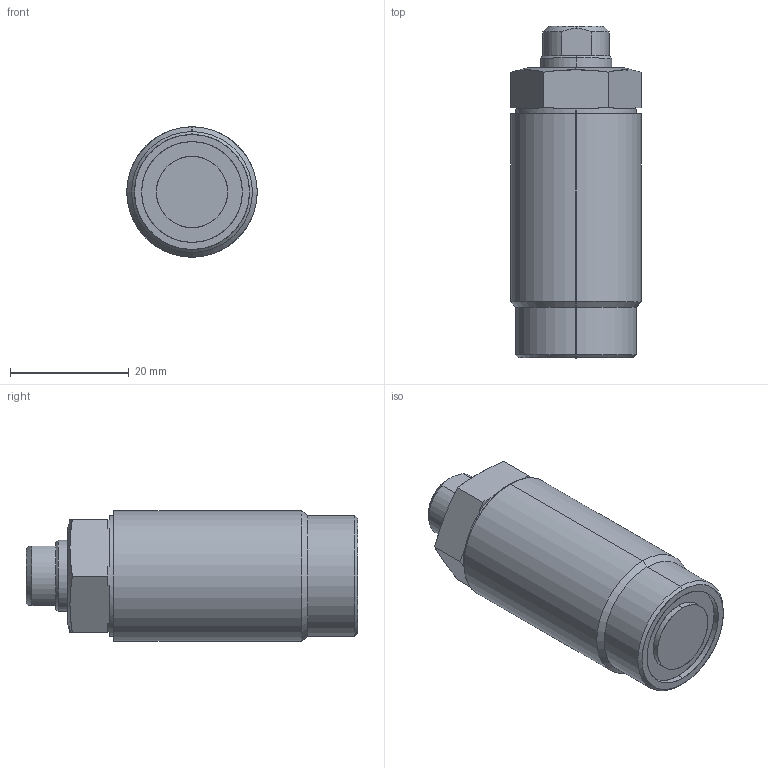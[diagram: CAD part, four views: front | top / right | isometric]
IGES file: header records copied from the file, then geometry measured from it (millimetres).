
Start section: SolidWorks IGES file using analytic representation for surfaces
Global section: file name: D:\karuppas\Clasp\3D model\Thread body cylinder\T03C-M221- L threaded pusher\T03C-M221-L threaded pusher.IGS; native system: SolidWorks 2017; preprocessor: SolidWorks 2017; author: pc; date: 220709.230521; units: millimetre
Bounding box: 22 x 56 x 22 mm (x, y, z)
Surface area: 6136.2 mm2 (no closed solid volume)
Topology: 0 solids, 0 shells, 237 faces, 2546 edges, 2544 vertices
Faces by surface type: bspline 208, revolution 29
